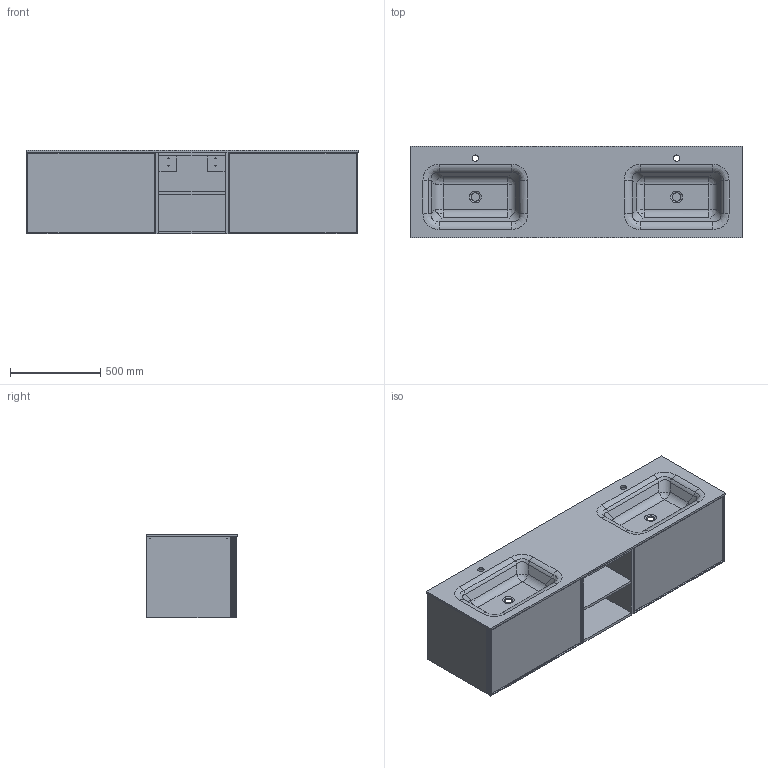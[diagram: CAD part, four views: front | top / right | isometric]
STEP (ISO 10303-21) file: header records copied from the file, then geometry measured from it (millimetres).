
FILE_DESCRIPTION (( 'STEP AP214' ), '1' );
FILE_NAME ('Boffi-1850.STEP', '2020-07-02T05:58:26', ( '' ), ( '' ), 'SwSTEP 2.0', 'SolidWorks 2020', '' );
FILE_SCHEMA (( 'AUTOMOTIVE_DESIGN' ));
Length unit declared in the file: millimetre
Products named in the file (7): Boffi-1850-BRACKETS; ewbfwnethywtdsfgeqhwtrwet; Boffi-1850; dwebfdgmje5ytfbdwts; rewfqwbfgfsbrgtwert
Assembly tree (6 placements, depth 3):
  Boffi-1850
    dwebfdgmje5ytfbdwts
    ewbfwnethywtdsfgeqhwtrwet
      rewfqwbfgfsbrgtwert
      ewbfwnethywtdsfgeqhwtrwet
    Boffi-1850
    Boffi-1850-BRACKETS
Bounding box: 1838 x 505 x 462 mm (x, y, z)
Volume: 78064820.1 mm3; surface area: 13527514.2 mm2
Topology: 65 solids, 65 shells, 1022 faces, 2588 edges, 1696 vertices
Faces by surface type: plane 656, cylinder 328, bspline 28, cone 10
Entity records: 35794 total; most frequent: CARTESIAN_POINT 10150, ORIENTED_EDGE 5152, DIRECTION 4956, EDGE_CURVE 2576, VECTOR 1884, LINE 1884, VERTEX_POINT 1696, AXIS2_PLACEMENT_3D 1536
